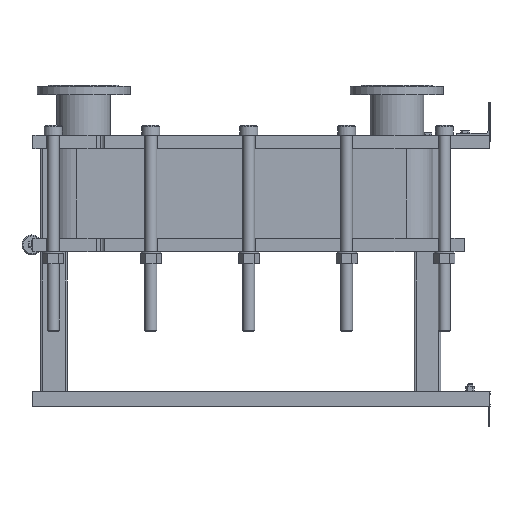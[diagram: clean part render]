
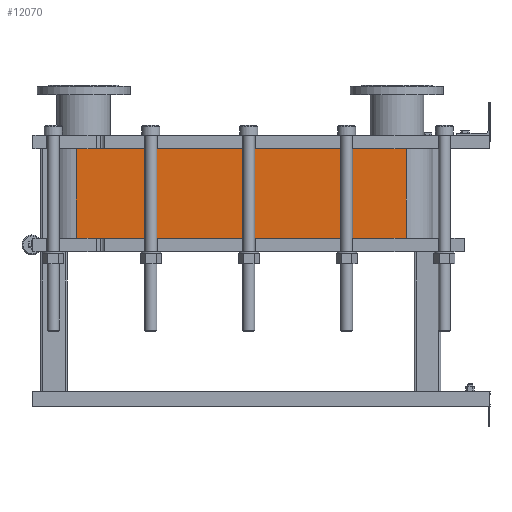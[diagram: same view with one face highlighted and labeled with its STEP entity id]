
A CAD part, left-side view. The second image highlights one B-rep face of the part: STEP entity #12070.
In plain terms, the highlighted planar face has unit normal (-1, 0, 0).
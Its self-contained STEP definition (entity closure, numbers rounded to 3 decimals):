
#1064=LINE('',#21140,#2164);
#1065=LINE('',#21144,#2165);
#1066=LINE('',#21146,#2166);
#1067=LINE('',#21147,#2167);
#2164=VECTOR('',#15790,10.);
#2165=VECTOR('',#15795,10.);
#2166=VECTOR('',#15796,10.);
#2167=VECTOR('',#15797,10.);
#3304=FACE_OUTER_BOUND('',#4091,.T.);
#4091=EDGE_LOOP('',(#9793,#9794,#9795,#9796));
#5677=VERTEX_POINT('',#21137);
#5678=VERTEX_POINT('',#21139);
#5679=VERTEX_POINT('',#21143);
#5680=VERTEX_POINT('',#21145);
#7118=EDGE_CURVE('',#5678,#5677,#1064,.T.);
#7120=EDGE_CURVE('',#5677,#5679,#1065,.T.);
#7121=EDGE_CURVE('',#5680,#5679,#1066,.T.);
#7122=EDGE_CURVE('',#5680,#5678,#1067,.T.);
#9793=ORIENTED_EDGE('',*,*,#7120,.T.);
#9794=ORIENTED_EDGE('',*,*,#7121,.F.);
#9795=ORIENTED_EDGE('',*,*,#7122,.T.);
#9796=ORIENTED_EDGE('',*,*,#7118,.T.);
#11441=PLANE('',#13191);
#12070=ADVANCED_FACE('',(#3304),#11441,.T.);
#13191=AXIS2_PLACEMENT_3D('',#21142,#15793,#15794);
#15790=DIRECTION('',(0.,0.,-1.));
#15793=DIRECTION('center_axis',(-1.,0.,0.));
#15794=DIRECTION('ref_axis',(0.,1.,0.));
#15795=DIRECTION('',(0.,-1.,0.));
#15796=DIRECTION('',(0.,0.,-1.));
#15797=DIRECTION('',(0.,1.,0.));
#21137=CARTESIAN_POINT('',(-248.152,1243.818,-269.1));
#21139=CARTESIAN_POINT('',(-248.152,1243.818,0.));
#21140=CARTESIAN_POINT('',(-248.152,1243.818,0.));
#21142=CARTESIAN_POINT('Origin',(-248.152,251.818,0.));
#21143=CARTESIAN_POINT('',(-248.152,251.818,-269.1));
#21144=CARTESIAN_POINT('',(-248.152,499.818,-269.1));
#21145=CARTESIAN_POINT('',(-248.152,251.818,0.));
#21146=CARTESIAN_POINT('',(-248.152,251.818,0.));
#21147=CARTESIAN_POINT('',(-248.152,251.818,0.));
